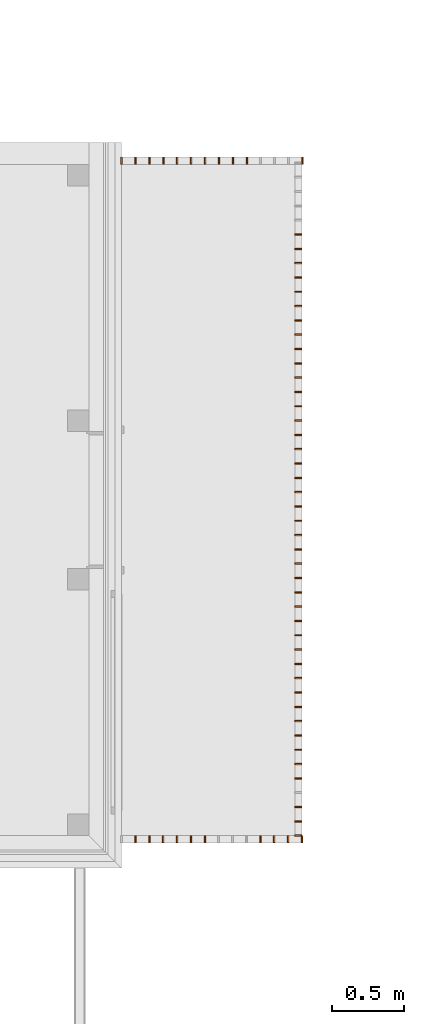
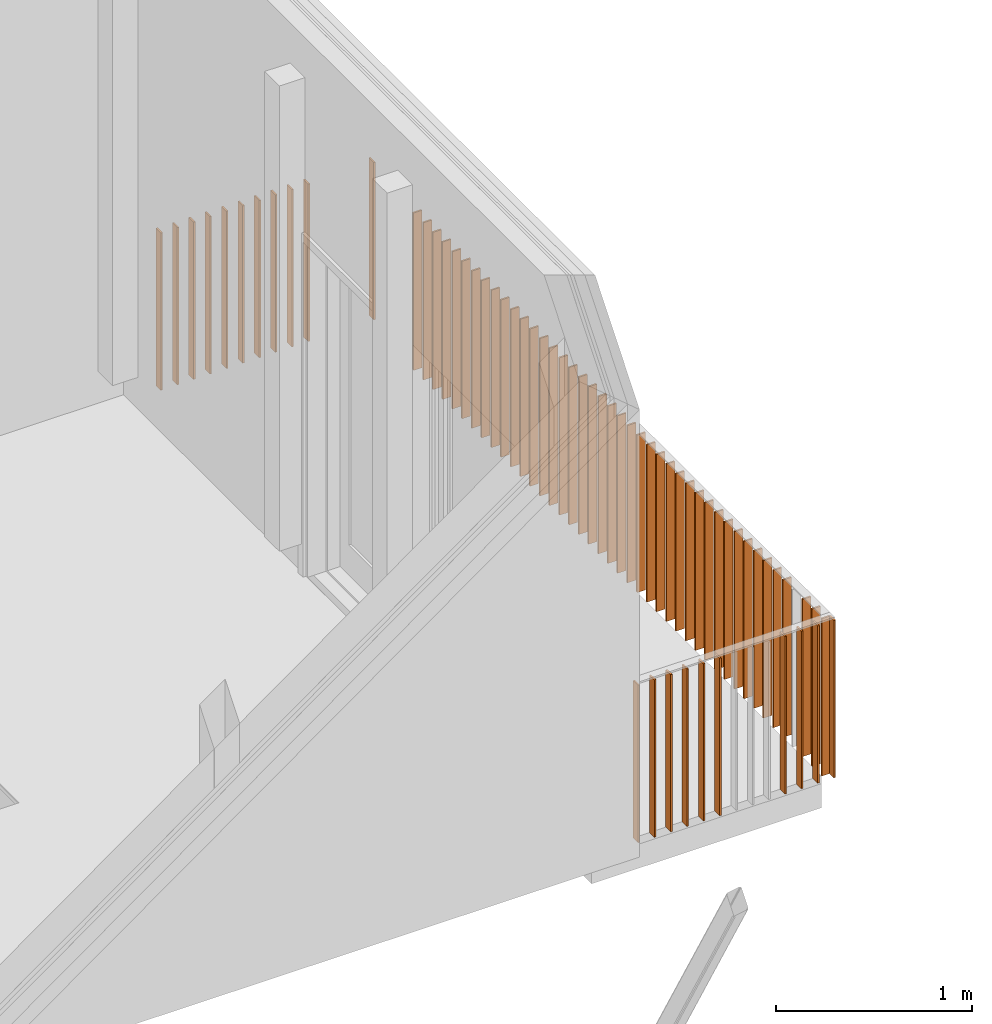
# One storey, part 79 of 100: 63 proxies, 3 elements without a shape of their own.
"""IFC2X3 building model written with IfcOpenShell, lengths in millimetres."""

from ifc_helpers import new_model, entity, si_unit, converted_unit, derived_unit, money_unit, direction, frame, origin_with_axes, place, context, subcontext, project, spatial, faceted_brep, source, transform, mapped, material, type_object, element, aggregate, save


model = new_model("IFC2X3")

# Units and contexts
model_context = context("Model", 3, precision=0.01, world=origin_with_axes(), true_north=direction((0.0, 1.0)))
body_context = subcontext(model_context, "Body", "Model", "MODEL_VIEW")
ifc_project = project(units=[si_unit("LENGTHUNIT", "METRE", prefix="MILLI"), si_unit("AREAUNIT", "SQUARE_METRE"), si_unit("VOLUMEUNIT", "CUBIC_METRE"), converted_unit("PLANEANGLEUNIT", "DEGREE", entity("IfcPlaneAngleMeasure", 0.0174532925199), si_unit("PLANEANGLEUNIT", "RADIAN"), dimensions=[0, 0, 0, 0, 0, 0, 0]), si_unit("SOLIDANGLEUNIT", "STERADIAN"), money_unit("EUR"), converted_unit("TIMEUNIT", "Year", entity("IfcTimeMeasure", 31556926.0), si_unit("TIMEUNIT", "SECOND"), dimensions=[0, 0, 1, 0, 0, 0, 0]), si_unit("MASSUNIT", "GRAM", prefix="KILO"), si_unit("THERMODYNAMICTEMPERATUREUNIT", "DEGREE_CELSIUS"), si_unit("LUMINOUSINTENSITYUNIT", "LUMEN"), si_unit("ENERGYUNIT", "JOULE", prefix="MEGA"), derived_unit("THERMALCONDUCTANCEUNIT", [(si_unit("POWERUNIT", "WATT"), 1), (si_unit("LENGTHUNIT", "METRE"), -1), (si_unit("THERMODYNAMICTEMPERATUREUNIT", "KELVIN"), -1)]), derived_unit("SPECIFICHEATCAPACITYUNIT", [(si_unit("ENERGYUNIT", "JOULE"), 1), (si_unit("MASSUNIT", "GRAM", prefix="KILO"), -1), (si_unit("THERMODYNAMICTEMPERATUREUNIT", "KELVIN"), -1)]), derived_unit("MASSDENSITYUNIT", [(si_unit("MASSUNIT", "GRAM", prefix="KILO"), 1), (si_unit("VOLUMEUNIT", "CUBIC_METRE"), -1)])], contexts=[model_context])

# Site, building, storey
site_placement = place(None, origin_with_axes())
site = spatial("IfcSite", under=ifc_project, at=site_placement, Name="Politse- ja Piirivalveameti ning Päästeameti ühishoone", CompositionType="ELEMENT")
building_placement = place(site_placement, origin_with_axes())
building = spatial("IfcBuilding", under=site, at=building_placement, Name="Politse- ja Piirivalveameti ning Päästeameti ühishoone", CompositionType="ELEMENT")
storey_placement = place(building_placement, frame((0.0, 0.0, 3800.0), z_axis=(0.0, 0.0, 1.0), x_axis=(1.0, 0.0, 0.0)))
storey = spatial("IfcBuildingStorey", under=building, at=storey_placement, Name="Teine korrus", CompositionType="ELEMENT", Elevation=3800.0)

# Railing, proxies
railing_type = type_object("IfcRailingType", Name="Railing Type", PredefinedType="NOTDEFINED")
railing_1_placement = place(storey_placement, frame((-7483.77309461, -75.0, -549.999987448), z_axis=(0.0, 0.0, 1.0), x_axis=(0.0, 1.0, 0.0)))
railing_1 = element("IfcRailing", 1, at=railing_1_placement, inside=storey, type_object=railing_type, Name="PIIRE 2", PredefinedType="NOTDEFINED")
ifc_material = material(Name="Teras - Konstruktsioon")
building_element_proxy_type = type_object("IfcBuildingElementProxyType", Name="IfcBuildingElementProxy", PredefinedType="NOTDEFINED")
shared_shape_1 = source(origin_with_axes(), body_context, "Body", "Brep", [
    faceted_brep([(25.0, 5.0, 0.0), (-25.0, 5.0, 0.0), (-25.0, 5.0, 980.0), (25.0, 5.0, 980.0), (25.0, -5.0, 0.0), (-25.0, -5.0, 0.0), (-25.0, -5.0, 980.0), (25.0, -5.0, 980.0)], [[[0, 1, 2, 3]], [[0, 4, 5, 1]], [[1, 5, 6, 2]], [[3, 2, 6, 7]], [[4, 0, 3, 7]], [[5, 4, 7, 6]]]),
])
proxy_1_placement = place(railing_1_placement, frame((-25.0, -427.074322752, 0.0), z_axis=(0.0, 0.0, 1.0), x_axis=(0.0, -1.0, 0.0)))
proxy_1 = element("IfcBuildingElementProxy", 2, at=proxy_1_placement, type_object=building_element_proxy_type, material=ifc_material, Name="PIIRDE POST - 001", context=body_context, shape_type="MappedRepresentation", body=[
    mapped(shared_shape_1, transform((0.0, 0.0, 0.0), x_axis=(0.0, 1.0, 0.0), y_axis=(-1.0, 0.0, 0.0), z_axis=(0.0, 0.0, 1.0))),
])
shared_shape_2 = source(origin_with_axes(), body_context, "Body", "Brep", [
    faceted_brep([(25.0, 5.0, 0.0), (-25.0, 5.0, 0.0), (-25.0, 5.0, 980.000012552), (25.0, 5.0, 980.000012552), (25.0, -5.0, 0.0), (-25.0, -5.0, 0.0), (-25.0, -5.0, 980.000012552), (25.0, -5.0, 980.000012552)], [[[0, 1, 2, 3]], [[0, 4, 5, 1]], [[1, 5, 6, 2]], [[3, 2, 6, 7]], [[4, 0, 3, 7]], [[5, 4, 7, 6]]]),
])
proxy_2_placement = place(railing_1_placement, frame((-25.0, -330.920476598, -1.25517001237e-05), z_axis=(0.0, 0.0, 1.0), x_axis=(0.0, -1.0, 0.0)))
proxy_2 = element("IfcBuildingElementProxy", 3, at=proxy_2_placement, type_object=building_element_proxy_type, material=ifc_material, Name="BALUSTER - 001", context=body_context, shape_type="MappedRepresentation", body=[
    mapped(shared_shape_2, transform((0.0, 0.0, 0.0), x_axis=(0.0, 1.0, 0.0), y_axis=(-1.0, 0.0, 0.0), z_axis=(0.0, 0.0, 1.0))),
])
proxy_3_placement = place(railing_1_placement, frame((-25.0, -234.766630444, -1.25517001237e-05), z_axis=(0.0, 0.0, 1.0), x_axis=(0.0, -1.0, 0.0)))
proxy_3 = element("IfcBuildingElementProxy", 4, at=proxy_3_placement, type_object=building_element_proxy_type, material=ifc_material, Name="BALUSTER - 001", context=body_context, shape_type="MappedRepresentation", body=[
    mapped(shared_shape_2, transform((0.0, 0.0, 0.0), x_axis=(0.0, 1.0, 0.0), y_axis=(-1.0, 0.0, 0.0), z_axis=(0.0, 0.0, 1.0))),
])
proxy_4_placement = place(railing_1_placement, frame((-25.0, -138.61278429, -1.25517001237e-05), z_axis=(0.0, 0.0, 1.0), x_axis=(0.0, -1.0, 0.0)))
proxy_4 = element("IfcBuildingElementProxy", 5, at=proxy_4_placement, type_object=building_element_proxy_type, material=ifc_material, Name="BALUSTER - 001", context=body_context, shape_type="MappedRepresentation", body=[
    mapped(shared_shape_2, transform((0.0, 0.0, 0.0), x_axis=(0.0, 1.0, 0.0), y_axis=(-1.0, 0.0, 0.0), z_axis=(0.0, 0.0, 1.0))),
])
proxy_5_placement = place(railing_1_placement, frame((-25.0, 246.002600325, -1.25517001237e-05), z_axis=(0.0, 0.0, 1.0), x_axis=(0.0, -1.0, 0.0)))
proxy_5 = element("IfcBuildingElementProxy", 6, at=proxy_5_placement, type_object=building_element_proxy_type, material=ifc_material, Name="BALUSTER - 001", context=body_context, shape_type="MappedRepresentation", body=[
    mapped(shared_shape_2, transform((0.0, 0.0, 0.0), x_axis=(0.0, 1.0, 0.0), y_axis=(-1.0, 0.0, 0.0), z_axis=(0.0, 0.0, 1.0))),
])
proxy_6_placement = place(railing_1_placement, frame((-25.0, 342.156446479, -1.25517001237e-05), z_axis=(0.0, 0.0, 1.0), x_axis=(0.0, -1.0, 0.0)))
proxy_6 = element("IfcBuildingElementProxy", 7, at=proxy_6_placement, type_object=building_element_proxy_type, material=ifc_material, Name="BALUSTER - 001", context=body_context, shape_type="MappedRepresentation", body=[
    mapped(shared_shape_2, transform((0.0, 0.0, 0.0), x_axis=(0.0, 1.0, 0.0), y_axis=(-1.0, 0.0, 0.0), z_axis=(0.0, 0.0, 1.0))),
])
proxy_7_placement = place(railing_1_placement, frame((-25.0, 438.310292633, -1.25517001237e-05), z_axis=(0.0, 0.0, 1.0), x_axis=(0.0, -1.0, 0.0)))
proxy_7 = element("IfcBuildingElementProxy", 8, at=proxy_7_placement, type_object=building_element_proxy_type, material=ifc_material, Name="BALUSTER - 001", context=body_context, shape_type="MappedRepresentation", body=[
    mapped(shared_shape_2, transform((0.0, 0.0, 0.0), x_axis=(0.0, 1.0, 0.0), y_axis=(-1.0, 0.0, 0.0), z_axis=(0.0, 0.0, 1.0))),
])
proxy_8_placement = place(railing_1_placement, frame((-25.0, 534.464138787, -1.25517001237e-05), z_axis=(0.0, 0.0, 1.0), x_axis=(0.0, -1.0, 0.0)))
proxy_8 = element("IfcBuildingElementProxy", 9, at=proxy_8_placement, type_object=building_element_proxy_type, material=ifc_material, Name="BALUSTER - 001", context=body_context, shape_type="MappedRepresentation", body=[
    mapped(shared_shape_2, transform((0.0, 0.0, 0.0), x_axis=(0.0, 1.0, 0.0), y_axis=(-1.0, 0.0, 0.0), z_axis=(0.0, 0.0, 1.0))),
])
proxy_9_placement = place(railing_1_placement, frame((-25.0, 630.617984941, -1.25517001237e-05), z_axis=(0.0, 0.0, 1.0), x_axis=(0.0, -1.0, 0.0)))
proxy_9 = element("IfcBuildingElementProxy", 10, at=proxy_9_placement, type_object=building_element_proxy_type, material=ifc_material, Name="BALUSTER - 001", context=body_context, shape_type="MappedRepresentation", body=[
    mapped(shared_shape_2, transform((0.0, 0.0, 0.0), x_axis=(0.0, 1.0, 0.0), y_axis=(-1.0, 0.0, 0.0), z_axis=(0.0, 0.0, 1.0))),
])
proxy_10_placement = place(railing_1_placement, frame((-25.0, 726.771831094, -1.25517001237e-05), z_axis=(0.0, 0.0, 1.0), x_axis=(0.0, -1.0, 0.0)))
proxy_10 = element("IfcBuildingElementProxy", 11, at=proxy_10_placement, type_object=building_element_proxy_type, material=ifc_material, Name="BALUSTER - 001", context=body_context, shape_type="MappedRepresentation", body=[
    mapped(shared_shape_2, transform((0.0, 0.0, 0.0), x_axis=(0.0, 1.0, 0.0), y_axis=(-1.0, 0.0, 0.0), z_axis=(0.0, 0.0, 1.0))),
])
aggregate(railing_1, [proxy_1, proxy_2, proxy_3, proxy_4, proxy_5, proxy_6, proxy_7, proxy_8, proxy_9, proxy_10])

railing_2_placement = place(storey_placement, frame((-7483.77309461, 4575.4616888, -549.999987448), z_axis=(0.0, 0.0, 1.0), x_axis=(0.0, 1.0, 0.0)))
railing_2 = element("IfcRailing", 12, at=railing_2_placement, inside=storey, type_object=railing_type, Name="PIIRE 2", PredefinedType="NOTDEFINED")
shared_shape_3 = source(origin_with_axes(), body_context, "Body", "Brep", [
    faceted_brep([(25.0, 5.0, 0.0), (-25.0, 5.0, 0.0), (-25.0, 5.0, 980.0), (25.0, 5.0, 980.0), (25.0, -5.0, 0.0), (-25.0, -5.0, 0.0), (-25.0, -5.0, 980.0), (25.0, -5.0, 980.0)], [[[0, 1, 2, 3]], [[0, 4, 5, 1]], [[1, 5, 6, 2]], [[3, 2, 6, 7]], [[4, 0, 3, 7]], [[5, 4, 7, 6]]]),
])
proxy_11_placement = place(railing_2_placement, frame((25.0, -430.454000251, 0.0), z_axis=(0.0, 0.0, 1.0), x_axis=(0.0, -1.0, 0.0)))
proxy_11 = element("IfcBuildingElementProxy", 13, at=proxy_11_placement, type_object=building_element_proxy_type, material=ifc_material, Name="PIIRDE POST - 001", context=body_context, shape_type="MappedRepresentation", body=[
    mapped(shared_shape_3, transform((0.0, 0.0, 0.0), x_axis=(0.0, 1.0, 0.0), y_axis=(-1.0, 0.0, 0.0), z_axis=(0.0, 0.0, 1.0))),
])
proxy_12_placement = place(railing_2_placement, frame((25.0, 822.925677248, 0.0), z_axis=(0.0, 0.0, 1.0), x_axis=(0.0, -1.0, 0.0)))
proxy_12 = element("IfcBuildingElementProxy", 14, at=proxy_12_placement, type_object=building_element_proxy_type, material=ifc_material, Name="PIIRDE POST - 001", context=body_context, shape_type="MappedRepresentation", body=[
    mapped(shared_shape_3, transform((0.0, 0.0, 0.0), x_axis=(0.0, 1.0, 0.0), y_axis=(-1.0, 0.0, 0.0), z_axis=(0.0, 0.0, 1.0))),
])
shared_shape_4 = source(origin_with_axes(), body_context, "Body", "Brep", [
    faceted_brep([(25.0, 5.0, 0.0), (-25.0, 5.0, 0.0), (-25.0, 5.0, 980.000012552), (25.0, 5.0, 980.000012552), (25.0, -5.0, 0.0), (-25.0, -5.0, 0.0), (-25.0, -5.0, 980.000012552), (25.0, -5.0, 980.000012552)], [[[0, 1, 2, 3]], [[0, 4, 5, 1]], [[1, 5, 6, 2]], [[3, 2, 6, 7]], [[4, 0, 3, 7]], [[5, 4, 7, 6]]]),
])
proxy_13_placement = place(railing_2_placement, frame((25.0, -44.7987148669, -1.25517001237e-05), z_axis=(0.0, 0.0, 1.0), x_axis=(0.0, -1.0, 0.0)))
proxy_13 = element("IfcBuildingElementProxy", 15, at=proxy_13_placement, type_object=building_element_proxy_type, material=ifc_material, Name="BALUSTER - 001", context=body_context, shape_type="MappedRepresentation", body=[
    mapped(shared_shape_4, transform((0.0, 0.0, 0.0), x_axis=(0.0, 1.0, 0.0), y_axis=(-1.0, 0.0, 0.0), z_axis=(0.0, 0.0, 1.0))),
])
proxy_14_placement = place(railing_2_placement, frame((25.0, 51.6151064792, -1.25517001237e-05), z_axis=(0.0, 0.0, 1.0), x_axis=(0.0, -1.0, 0.0)))
proxy_14 = element("IfcBuildingElementProxy", 16, at=proxy_14_placement, type_object=building_element_proxy_type, material=ifc_material, Name="BALUSTER - 001", context=body_context, shape_type="MappedRepresentation", body=[
    mapped(shared_shape_4, transform((0.0, 0.0, 0.0), x_axis=(0.0, 1.0, 0.0), y_axis=(-1.0, 0.0, 0.0), z_axis=(0.0, 0.0, 1.0))),
])
proxy_15_placement = place(railing_2_placement, frame((25.0, 148.028927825, -1.25517001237e-05), z_axis=(0.0, 0.0, 1.0), x_axis=(0.0, -1.0, 0.0)))
proxy_15 = element("IfcBuildingElementProxy", 17, at=proxy_15_placement, type_object=building_element_proxy_type, material=ifc_material, Name="BALUSTER - 001", context=body_context, shape_type="MappedRepresentation", body=[
    mapped(shared_shape_4, transform((0.0, 0.0, 0.0), x_axis=(0.0, 1.0, 0.0), y_axis=(-1.0, 0.0, 0.0), z_axis=(0.0, 0.0, 1.0))),
])
proxy_16_placement = place(railing_2_placement, frame((25.0, 244.442749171, -1.25517001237e-05), z_axis=(0.0, 0.0, 1.0), x_axis=(0.0, -1.0, 0.0)))
proxy_16 = element("IfcBuildingElementProxy", 18, at=proxy_16_placement, type_object=building_element_proxy_type, material=ifc_material, Name="BALUSTER - 001", context=body_context, shape_type="MappedRepresentation", body=[
    mapped(shared_shape_4, transform((0.0, 0.0, 0.0), x_axis=(0.0, 1.0, 0.0), y_axis=(-1.0, 0.0, 0.0), z_axis=(0.0, 0.0, 1.0))),
])
proxy_17_placement = place(railing_2_placement, frame((25.0, 340.856570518, -1.25517001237e-05), z_axis=(0.0, 0.0, 1.0), x_axis=(0.0, -1.0, 0.0)))
proxy_17 = element("IfcBuildingElementProxy", 19, at=proxy_17_placement, type_object=building_element_proxy_type, material=ifc_material, Name="BALUSTER - 001", context=body_context, shape_type="MappedRepresentation", body=[
    mapped(shared_shape_4, transform((0.0, 0.0, 0.0), x_axis=(0.0, 1.0, 0.0), y_axis=(-1.0, 0.0, 0.0), z_axis=(0.0, 0.0, 1.0))),
])
proxy_18_placement = place(railing_2_placement, frame((25.0, 437.270391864, -1.25517001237e-05), z_axis=(0.0, 0.0, 1.0), x_axis=(0.0, -1.0, 0.0)))
proxy_18 = element("IfcBuildingElementProxy", 20, at=proxy_18_placement, type_object=building_element_proxy_type, material=ifc_material, Name="BALUSTER - 001", context=body_context, shape_type="MappedRepresentation", body=[
    mapped(shared_shape_4, transform((0.0, 0.0, 0.0), x_axis=(0.0, 1.0, 0.0), y_axis=(-1.0, 0.0, 0.0), z_axis=(0.0, 0.0, 1.0))),
])
proxy_19_placement = place(railing_2_placement, frame((25.0, 533.68421321, -1.25517001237e-05), z_axis=(0.0, 0.0, 1.0), x_axis=(0.0, -1.0, 0.0)))
proxy_19 = element("IfcBuildingElementProxy", 21, at=proxy_19_placement, type_object=building_element_proxy_type, material=ifc_material, Name="BALUSTER - 001", context=body_context, shape_type="MappedRepresentation", body=[
    mapped(shared_shape_4, transform((0.0, 0.0, 0.0), x_axis=(0.0, 1.0, 0.0), y_axis=(-1.0, 0.0, 0.0), z_axis=(0.0, 0.0, 1.0))),
])
proxy_20_placement = place(railing_2_placement, frame((25.0, 630.098034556, -1.25517001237e-05), z_axis=(0.0, 0.0, 1.0), x_axis=(0.0, -1.0, 0.0)))
proxy_20 = element("IfcBuildingElementProxy", 22, at=proxy_20_placement, type_object=building_element_proxy_type, material=ifc_material, Name="BALUSTER - 001", context=body_context, shape_type="MappedRepresentation", body=[
    mapped(shared_shape_4, transform((0.0, 0.0, 0.0), x_axis=(0.0, 1.0, 0.0), y_axis=(-1.0, 0.0, 0.0), z_axis=(0.0, 0.0, 1.0))),
])
proxy_21_placement = place(railing_2_placement, frame((25.0, 726.511855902, -1.25517001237e-05), z_axis=(0.0, 0.0, 1.0), x_axis=(0.0, -1.0, 0.0)))
proxy_21 = element("IfcBuildingElementProxy", 23, at=proxy_21_placement, type_object=building_element_proxy_type, material=ifc_material, Name="BALUSTER - 001", context=body_context, shape_type="MappedRepresentation", body=[
    mapped(shared_shape_4, transform((0.0, 0.0, 0.0), x_axis=(0.0, 1.0, 0.0), y_axis=(-1.0, 0.0, 0.0), z_axis=(0.0, 0.0, 1.0))),
])
aggregate(railing_2, [proxy_11, proxy_12, proxy_13, proxy_14, proxy_15, proxy_16, proxy_17, proxy_18, proxy_19, proxy_20, proxy_21])

railing_3_placement = place(storey_placement, frame((-7106.69877185, 4799.53601155, -549.999987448), z_axis=(0.0, 0.0, 1.0), x_axis=(1.0, 0.0, 0.0)))
railing_3 = element("IfcRailing", 24, at=railing_3_placement, inside=storey, type_object=railing_type, Name="PIIRE 2", PredefinedType="NOTDEFINED")
proxy_22_placement = place(railing_3_placement, frame((25.0, -3783.77196788, -1.25517001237e-05), z_axis=(0.0, 0.0, 1.0), x_axis=(1.0, 0.0, 0.0)))
proxy_22 = element("IfcBuildingElementProxy", 25, at=proxy_22_placement, type_object=building_element_proxy_type, material=ifc_material, Name="BALUSTER - 001", context=body_context, shape_type="MappedRepresentation", body=[
    mapped(shared_shape_4, transform((0.0, 0.0, 0.0))),
])
proxy_23_placement = place(railing_3_placement, frame((25.0, -3684.61160027, -1.25517001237e-05), z_axis=(0.0, 0.0, 1.0), x_axis=(1.0, 0.0, 0.0)))
proxy_23 = element("IfcBuildingElementProxy", 26, at=proxy_23_placement, type_object=building_element_proxy_type, material=ifc_material, Name="BALUSTER - 001", context=body_context, shape_type="MappedRepresentation", body=[
    mapped(shared_shape_4, transform((0.0, 0.0, 0.0))),
])
proxy_24_placement = place(railing_3_placement, frame((25.0, -3585.45123267, -1.25517001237e-05), z_axis=(0.0, 0.0, 1.0), x_axis=(1.0, 0.0, 0.0)))
proxy_24 = element("IfcBuildingElementProxy", 27, at=proxy_24_placement, type_object=building_element_proxy_type, material=ifc_material, Name="BALUSTER - 001", context=body_context, shape_type="MappedRepresentation", body=[
    mapped(shared_shape_4, transform((0.0, 0.0, 0.0))),
])
proxy_25_placement = place(railing_3_placement, frame((25.0, -3486.29086506, -1.25517001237e-05), z_axis=(0.0, 0.0, 1.0), x_axis=(1.0, 0.0, 0.0)))
proxy_25 = element("IfcBuildingElementProxy", 28, at=proxy_25_placement, type_object=building_element_proxy_type, material=ifc_material, Name="BALUSTER - 001", context=body_context, shape_type="MappedRepresentation", body=[
    mapped(shared_shape_4, transform((0.0, 0.0, 0.0))),
])
proxy_26_placement = place(railing_3_placement, frame((25.0, -3387.13049745, -1.25517001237e-05), z_axis=(0.0, 0.0, 1.0), x_axis=(1.0, 0.0, 0.0)))
proxy_26 = element("IfcBuildingElementProxy", 29, at=proxy_26_placement, type_object=building_element_proxy_type, material=ifc_material, Name="BALUSTER - 001", context=body_context, shape_type="MappedRepresentation", body=[
    mapped(shared_shape_4, transform((0.0, 0.0, 0.0))),
])
proxy_27_placement = place(railing_3_placement, frame((25.0, -3287.97012985, -1.25517001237e-05), z_axis=(0.0, 0.0, 1.0), x_axis=(1.0, 0.0, 0.0)))
proxy_27 = element("IfcBuildingElementProxy", 30, at=proxy_27_placement, type_object=building_element_proxy_type, material=ifc_material, Name="BALUSTER - 001", context=body_context, shape_type="MappedRepresentation", body=[
    mapped(shared_shape_4, transform((0.0, 0.0, 0.0))),
])
proxy_28_placement = place(railing_3_placement, frame((25.0, -3188.80976224, -1.25517001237e-05), z_axis=(0.0, 0.0, 1.0), x_axis=(1.0, 0.0, 0.0)))
proxy_28 = element("IfcBuildingElementProxy", 31, at=proxy_28_placement, type_object=building_element_proxy_type, material=ifc_material, Name="BALUSTER - 001", context=body_context, shape_type="MappedRepresentation", body=[
    mapped(shared_shape_4, transform((0.0, 0.0, 0.0))),
])
proxy_29_placement = place(railing_3_placement, frame((25.0, -3089.64939463, -1.25517001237e-05), z_axis=(0.0, 0.0, 1.0), x_axis=(1.0, 0.0, 0.0)))
proxy_29 = element("IfcBuildingElementProxy", 32, at=proxy_29_placement, type_object=building_element_proxy_type, material=ifc_material, Name="BALUSTER - 001", context=body_context, shape_type="MappedRepresentation", body=[
    mapped(shared_shape_4, transform((0.0, 0.0, 0.0))),
])
proxy_30_placement = place(railing_3_placement, frame((25.0, -2990.48902702, -1.25517001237e-05), z_axis=(0.0, 0.0, 1.0), x_axis=(1.0, 0.0, 0.0)))
proxy_30 = element("IfcBuildingElementProxy", 33, at=proxy_30_placement, type_object=building_element_proxy_type, material=ifc_material, Name="BALUSTER - 001", context=body_context, shape_type="MappedRepresentation", body=[
    mapped(shared_shape_4, transform((0.0, 0.0, 0.0))),
])
proxy_31_placement = place(railing_3_placement, frame((25.0, -2891.32865942, -1.25517001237e-05), z_axis=(0.0, 0.0, 1.0), x_axis=(1.0, 0.0, 0.0)))
proxy_31 = element("IfcBuildingElementProxy", 34, at=proxy_31_placement, type_object=building_element_proxy_type, material=ifc_material, Name="BALUSTER - 001", context=body_context, shape_type="MappedRepresentation", body=[
    mapped(shared_shape_4, transform((0.0, 0.0, 0.0))),
])
proxy_32_placement = place(railing_3_placement, frame((25.0, -2792.16829181, -1.25517001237e-05), z_axis=(0.0, 0.0, 1.0), x_axis=(1.0, 0.0, 0.0)))
proxy_32 = element("IfcBuildingElementProxy", 35, at=proxy_32_placement, type_object=building_element_proxy_type, material=ifc_material, Name="BALUSTER - 001", context=body_context, shape_type="MappedRepresentation", body=[
    mapped(shared_shape_4, transform((0.0, 0.0, 0.0))),
])
proxy_33_placement = place(railing_3_placement, frame((25.0, -2693.0079242, -1.25517001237e-05), z_axis=(0.0, 0.0, 1.0), x_axis=(1.0, 0.0, 0.0)))
proxy_33 = element("IfcBuildingElementProxy", 36, at=proxy_33_placement, type_object=building_element_proxy_type, material=ifc_material, Name="BALUSTER - 001", context=body_context, shape_type="MappedRepresentation", body=[
    mapped(shared_shape_4, transform((0.0, 0.0, 0.0))),
])
proxy_34_placement = place(railing_3_placement, frame((25.0, -2593.8475566, -1.25517001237e-05), z_axis=(0.0, 0.0, 1.0), x_axis=(1.0, 0.0, 0.0)))
proxy_34 = element("IfcBuildingElementProxy", 37, at=proxy_34_placement, type_object=building_element_proxy_type, material=ifc_material, Name="BALUSTER - 001", context=body_context, shape_type="MappedRepresentation", body=[
    mapped(shared_shape_4, transform((0.0, 0.0, 0.0))),
])
proxy_35_placement = place(railing_3_placement, frame((25.0, -2494.68718899, -1.25517001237e-05), z_axis=(0.0, 0.0, 1.0), x_axis=(1.0, 0.0, 0.0)))
proxy_35 = element("IfcBuildingElementProxy", 38, at=proxy_35_placement, type_object=building_element_proxy_type, material=ifc_material, Name="BALUSTER - 001", context=body_context, shape_type="MappedRepresentation", body=[
    mapped(shared_shape_4, transform((0.0, 0.0, 0.0))),
])
proxy_36_placement = place(railing_3_placement, frame((25.0, -2395.52682138, -1.25517001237e-05), z_axis=(0.0, 0.0, 1.0), x_axis=(1.0, 0.0, 0.0)))
proxy_36 = element("IfcBuildingElementProxy", 39, at=proxy_36_placement, type_object=building_element_proxy_type, material=ifc_material, Name="BALUSTER - 001", context=body_context, shape_type="MappedRepresentation", body=[
    mapped(shared_shape_4, transform((0.0, 0.0, 0.0))),
])
proxy_37_placement = place(railing_3_placement, frame((25.0, -2296.36645378, -1.25517001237e-05), z_axis=(0.0, 0.0, 1.0), x_axis=(1.0, 0.0, 0.0)))
proxy_37 = element("IfcBuildingElementProxy", 40, at=proxy_37_placement, type_object=building_element_proxy_type, material=ifc_material, Name="BALUSTER - 001", context=body_context, shape_type="MappedRepresentation", body=[
    mapped(shared_shape_4, transform((0.0, 0.0, 0.0))),
])
proxy_38_placement = place(railing_3_placement, frame((25.0, -2197.20608617, -1.25517001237e-05), z_axis=(0.0, 0.0, 1.0), x_axis=(1.0, 0.0, 0.0)))
proxy_38 = element("IfcBuildingElementProxy", 41, at=proxy_38_placement, type_object=building_element_proxy_type, material=ifc_material, Name="BALUSTER - 001", context=body_context, shape_type="MappedRepresentation", body=[
    mapped(shared_shape_4, transform((0.0, 0.0, 0.0))),
])
proxy_39_placement = place(railing_3_placement, frame((25.0, -2098.04571856, -1.25517001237e-05), z_axis=(0.0, 0.0, 1.0), x_axis=(1.0, 0.0, 0.0)))
proxy_39 = element("IfcBuildingElementProxy", 42, at=proxy_39_placement, type_object=building_element_proxy_type, material=ifc_material, Name="BALUSTER - 001", context=body_context, shape_type="MappedRepresentation", body=[
    mapped(shared_shape_4, transform((0.0, 0.0, 0.0))),
])
proxy_40_placement = place(railing_3_placement, frame((25.0, -1998.88535096, -1.25517001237e-05), z_axis=(0.0, 0.0, 1.0), x_axis=(1.0, 0.0, 0.0)))
proxy_40 = element("IfcBuildingElementProxy", 43, at=proxy_40_placement, type_object=building_element_proxy_type, material=ifc_material, Name="BALUSTER - 001", context=body_context, shape_type="MappedRepresentation", body=[
    mapped(shared_shape_4, transform((0.0, 0.0, 0.0))),
])
proxy_41_placement = place(railing_3_placement, frame((25.0, -1899.72498335, -1.25517001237e-05), z_axis=(0.0, 0.0, 1.0), x_axis=(1.0, 0.0, 0.0)))
proxy_41 = element("IfcBuildingElementProxy", 44, at=proxy_41_placement, type_object=building_element_proxy_type, material=ifc_material, Name="BALUSTER - 001", context=body_context, shape_type="MappedRepresentation", body=[
    mapped(shared_shape_4, transform((0.0, 0.0, 0.0))),
])
proxy_42_placement = place(railing_3_placement, frame((25.0, -1800.56461574, -1.25517001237e-05), z_axis=(0.0, 0.0, 1.0), x_axis=(1.0, 0.0, 0.0)))
proxy_42 = element("IfcBuildingElementProxy", 45, at=proxy_42_placement, type_object=building_element_proxy_type, material=ifc_material, Name="BALUSTER - 001", context=body_context, shape_type="MappedRepresentation", body=[
    mapped(shared_shape_4, transform((0.0, 0.0, 0.0))),
])
proxy_43_placement = place(railing_3_placement, frame((25.0, -1701.40424814, -1.25517001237e-05), z_axis=(0.0, 0.0, 1.0), x_axis=(1.0, 0.0, 0.0)))
proxy_43 = element("IfcBuildingElementProxy", 46, at=proxy_43_placement, type_object=building_element_proxy_type, material=ifc_material, Name="BALUSTER - 001", context=body_context, shape_type="MappedRepresentation", body=[
    mapped(shared_shape_4, transform((0.0, 0.0, 0.0))),
])
proxy_44_placement = place(railing_3_placement, frame((25.0, -1602.24388053, -1.25517001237e-05), z_axis=(0.0, 0.0, 1.0), x_axis=(1.0, 0.0, 0.0)))
proxy_44 = element("IfcBuildingElementProxy", 47, at=proxy_44_placement, type_object=building_element_proxy_type, material=ifc_material, Name="BALUSTER - 001", context=body_context, shape_type="MappedRepresentation", body=[
    mapped(shared_shape_4, transform((0.0, 0.0, 0.0))),
])
proxy_45_placement = place(railing_3_placement, frame((25.0, -1503.08351292, -1.25517001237e-05), z_axis=(0.0, 0.0, 1.0), x_axis=(1.0, 0.0, 0.0)))
proxy_45 = element("IfcBuildingElementProxy", 48, at=proxy_45_placement, type_object=building_element_proxy_type, material=ifc_material, Name="BALUSTER - 001", context=body_context, shape_type="MappedRepresentation", body=[
    mapped(shared_shape_4, transform((0.0, 0.0, 0.0))),
])
proxy_46_placement = place(railing_3_placement, frame((25.0, -1403.92314532, -1.25517001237e-05), z_axis=(0.0, 0.0, 1.0), x_axis=(1.0, 0.0, 0.0)))
proxy_46 = element("IfcBuildingElementProxy", 49, at=proxy_46_placement, type_object=building_element_proxy_type, material=ifc_material, Name="BALUSTER - 001", context=body_context, shape_type="MappedRepresentation", body=[
    mapped(shared_shape_4, transform((0.0, 0.0, 0.0))),
])
proxy_47_placement = place(railing_3_placement, frame((25.0, -1304.76277771, -1.25517001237e-05), z_axis=(0.0, 0.0, 1.0), x_axis=(1.0, 0.0, 0.0)))
proxy_47 = element("IfcBuildingElementProxy", 50, at=proxy_47_placement, type_object=building_element_proxy_type, material=ifc_material, Name="BALUSTER - 001", context=body_context, shape_type="MappedRepresentation", body=[
    mapped(shared_shape_4, transform((0.0, 0.0, 0.0))),
])
proxy_48_placement = place(railing_3_placement, frame((25.0, -1205.6024101, -1.25517001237e-05), z_axis=(0.0, 0.0, 1.0), x_axis=(1.0, 0.0, 0.0)))
proxy_48 = element("IfcBuildingElementProxy", 51, at=proxy_48_placement, type_object=building_element_proxy_type, material=ifc_material, Name="BALUSTER - 001", context=body_context, shape_type="MappedRepresentation", body=[
    mapped(shared_shape_4, transform((0.0, 0.0, 0.0))),
])
proxy_49_placement = place(railing_3_placement, frame((25.0, -1106.4420425, -1.25517001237e-05), z_axis=(0.0, 0.0, 1.0), x_axis=(1.0, 0.0, 0.0)))
proxy_49 = element("IfcBuildingElementProxy", 52, at=proxy_49_placement, type_object=building_element_proxy_type, material=ifc_material, Name="BALUSTER - 001", context=body_context, shape_type="MappedRepresentation", body=[
    mapped(shared_shape_4, transform((0.0, 0.0, 0.0))),
])
proxy_50_placement = place(railing_3_placement, frame((25.0, -1007.28167489, -1.25517001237e-05), z_axis=(0.0, 0.0, 1.0), x_axis=(1.0, 0.0, 0.0)))
proxy_50 = element("IfcBuildingElementProxy", 53, at=proxy_50_placement, type_object=building_element_proxy_type, material=ifc_material, Name="BALUSTER - 001", context=body_context, shape_type="MappedRepresentation", body=[
    mapped(shared_shape_4, transform((0.0, 0.0, 0.0))),
])
proxy_51_placement = place(railing_3_placement, frame((25.0, -908.121307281, -1.25517001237e-05), z_axis=(0.0, 0.0, 1.0), x_axis=(1.0, 0.0, 0.0)))
proxy_51 = element("IfcBuildingElementProxy", 54, at=proxy_51_placement, type_object=building_element_proxy_type, material=ifc_material, Name="BALUSTER - 001", context=body_context, shape_type="MappedRepresentation", body=[
    mapped(shared_shape_4, transform((0.0, 0.0, 0.0))),
])
proxy_52_placement = place(railing_3_placement, frame((25.0, -808.960939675, -1.25517001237e-05), z_axis=(0.0, 0.0, 1.0), x_axis=(1.0, 0.0, 0.0)))
proxy_52 = element("IfcBuildingElementProxy", 55, at=proxy_52_placement, type_object=building_element_proxy_type, material=ifc_material, Name="BALUSTER - 001", context=body_context, shape_type="MappedRepresentation", body=[
    mapped(shared_shape_4, transform((0.0, 0.0, 0.0))),
])
proxy_53_placement = place(railing_3_placement, frame((25.0, -709.800572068, -1.25517001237e-05), z_axis=(0.0, 0.0, 1.0), x_axis=(1.0, 0.0, 0.0)))
proxy_53 = element("IfcBuildingElementProxy", 56, at=proxy_53_placement, type_object=building_element_proxy_type, material=ifc_material, Name="BALUSTER - 001", context=body_context, shape_type="MappedRepresentation", body=[
    mapped(shared_shape_4, transform((0.0, 0.0, 0.0))),
])
shared_shape_5 = source(origin_with_axes(), body_context, "Body", "Brep", [
    faceted_brep([(25.0, 5.0, 0.0), (-25.0, 5.0, 0.0), (-25.0, 5.0, 980.0), (25.0, 5.0, 980.0), (25.0, -5.0, 0.0), (-25.0, -5.0, 0.0), (-25.0, -5.0, 980.0), (25.0, -5.0, 980.0)], [[[0, 1, 2, 3]], [[0, 4, 5, 1]], [[1, 5, 6, 2]], [[3, 2, 6, 7]], [[4, 0, 3, 7]], [[5, 4, 7, 6]]]),
])
proxy_54_placement = place(railing_3_placement, frame((25.0, -4874.53601155, 0.0), z_axis=(0.0, 0.0, 1.0), x_axis=(1.0, 0.0, 0.0)))
proxy_54 = element("IfcBuildingElementProxy", 57, at=proxy_54_placement, type_object=building_element_proxy_type, material=ifc_material, Name="PIIRDE POST - 001", context=body_context, shape_type="MappedRepresentation", body=[
    mapped(shared_shape_5, transform((0.0, 0.0, 0.0))),
])
shared_shape_6 = source(origin_with_axes(), body_context, "Body", "Brep", [
    faceted_brep([(25.0, 5.0, 0.0), (-25.0, 5.0, 0.0), (-25.0, 5.0, 980.000012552), (25.0, 5.0, 980.000012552), (25.0, -5.0, 0.0), (-25.0, -5.0, 0.0), (-25.0, -5.0, 980.000012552), (25.0, -5.0, 980.000012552)], [[[0, 1, 2, 3]], [[0, 4, 5, 1]], [[1, 5, 6, 2]], [[3, 2, 6, 7]], [[4, 0, 3, 7]], [[5, 4, 7, 6]]]),
])
proxy_55_placement = place(railing_3_placement, frame((25.0, -4775.37564395, -1.25517001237e-05), z_axis=(0.0, 0.0, 1.0), x_axis=(1.0, 0.0, 0.0)))
proxy_55 = element("IfcBuildingElementProxy", 58, at=proxy_55_placement, type_object=building_element_proxy_type, material=ifc_material, Name="BALUSTER - 001", context=body_context, shape_type="MappedRepresentation", body=[
    mapped(shared_shape_6, transform((0.0, 0.0, 0.0))),
])
proxy_56_placement = place(railing_3_placement, frame((25.0, -4676.21527634, -1.25517001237e-05), z_axis=(0.0, 0.0, 1.0), x_axis=(1.0, 0.0, 0.0)))
proxy_56 = element("IfcBuildingElementProxy", 59, at=proxy_56_placement, type_object=building_element_proxy_type, material=ifc_material, Name="BALUSTER - 001", context=body_context, shape_type="MappedRepresentation", body=[
    mapped(shared_shape_6, transform((0.0, 0.0, 0.0))),
])
shared_shape_7 = source(origin_with_axes(), body_context, "Body", "Brep", [
    faceted_brep([(25.0, 5.0, 0.0), (-25.0, 5.0, 0.0), (-25.0, 5.0, 980.000012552), (25.0, 5.0, 980.000012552), (25.0, -5.0, 0.0), (-25.0, -5.0, 0.0), (-25.0, -5.0, 980.000012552), (25.0, -5.0, 980.000012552)], [[[0, 1, 2, 3]], [[0, 4, 5, 1]], [[1, 5, 6, 2]], [[3, 2, 6, 7]], [[4, 0, 3, 7]], [[5, 4, 7, 6]]]),
])
proxy_57_placement = place(railing_3_placement, frame((25.0, -4477.89454113, -1.25517001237e-05), z_axis=(0.0, 0.0, 1.0), x_axis=(1.0, 0.0, 0.0)))
proxy_57 = element("IfcBuildingElementProxy", 60, at=proxy_57_placement, type_object=building_element_proxy_type, material=ifc_material, Name="BALUSTER - 001", context=body_context, shape_type="MappedRepresentation", body=[
    mapped(shared_shape_7, transform((0.0, 0.0, 0.0))),
])
proxy_58_placement = place(railing_3_placement, frame((25.0, -4378.73417352, -1.25517001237e-05), z_axis=(0.0, 0.0, 1.0), x_axis=(1.0, 0.0, 0.0)))
proxy_58 = element("IfcBuildingElementProxy", 61, at=proxy_58_placement, type_object=building_element_proxy_type, material=ifc_material, Name="BALUSTER - 001", context=body_context, shape_type="MappedRepresentation", body=[
    mapped(shared_shape_7, transform((0.0, 0.0, 0.0))),
])
shared_shape_8 = source(origin_with_axes(), body_context, "Body", "Brep", [
    faceted_brep([(25.0, 5.0, 0.0), (-25.0, 5.0, 0.0), (-25.0, 5.0, 980.000012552), (25.0, 5.0, 980.000012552), (25.0, -5.0, 0.0), (-25.0, -5.0, 0.0), (-25.0, -5.0, 980.000012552), (25.0, -5.0, 980.000012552)], [[[0, 1, 2, 3]], [[0, 4, 5, 1]], [[1, 5, 6, 2]], [[3, 2, 6, 7]], [[4, 0, 3, 7]], [[5, 4, 7, 6]]]),
])
proxy_59_placement = place(railing_3_placement, frame((25.0, -4279.57380591, -1.25517001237e-05), z_axis=(0.0, 0.0, 1.0), x_axis=(1.0, 0.0, 0.0)))
proxy_59 = element("IfcBuildingElementProxy", 62, at=proxy_59_placement, type_object=building_element_proxy_type, material=ifc_material, Name="BALUSTER - 001", context=body_context, shape_type="MappedRepresentation", body=[
    mapped(shared_shape_8, transform((0.0, 0.0, 0.0))),
])
proxy_60_placement = place(railing_3_placement, frame((25.0, -4180.41343831, -1.25517001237e-05), z_axis=(0.0, 0.0, 1.0), x_axis=(1.0, 0.0, 0.0)))
proxy_60 = element("IfcBuildingElementProxy", 63, at=proxy_60_placement, type_object=building_element_proxy_type, material=ifc_material, Name="BALUSTER - 001", context=body_context, shape_type="MappedRepresentation", body=[
    mapped(shared_shape_8, transform((0.0, 0.0, 0.0))),
])
proxy_61_placement = place(railing_3_placement, frame((25.0, -4081.2530707, -1.25517001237e-05), z_axis=(0.0, 0.0, 1.0), x_axis=(1.0, 0.0, 0.0)))
proxy_61 = element("IfcBuildingElementProxy", 64, at=proxy_61_placement, type_object=building_element_proxy_type, material=ifc_material, Name="BALUSTER - 001", context=body_context, shape_type="MappedRepresentation", body=[
    mapped(shared_shape_8, transform((0.0, 0.0, 0.0))),
])
proxy_62_placement = place(railing_3_placement, frame((25.0, -3982.09270309, -1.25517001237e-05), z_axis=(0.0, 0.0, 1.0), x_axis=(1.0, 0.0, 0.0)))
proxy_62 = element("IfcBuildingElementProxy", 65, at=proxy_62_placement, type_object=building_element_proxy_type, material=ifc_material, Name="BALUSTER - 001", context=body_context, shape_type="MappedRepresentation", body=[
    mapped(shared_shape_8, transform((0.0, 0.0, 0.0))),
])
proxy_63_placement = place(railing_3_placement, frame((25.0, -3882.93233549, -1.25517001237e-05), z_axis=(0.0, 0.0, 1.0), x_axis=(1.0, 0.0, 0.0)))
proxy_63 = element("IfcBuildingElementProxy", 66, at=proxy_63_placement, type_object=building_element_proxy_type, material=ifc_material, Name="BALUSTER - 001", context=body_context, shape_type="MappedRepresentation", body=[
    mapped(shared_shape_8, transform((0.0, 0.0, 0.0))),
])
aggregate(railing_3, [proxy_54, proxy_55, proxy_56, proxy_57, proxy_58, proxy_59, proxy_60, proxy_61, proxy_62, proxy_63, proxy_22, proxy_23, proxy_24, proxy_25, proxy_26, proxy_27, proxy_28, proxy_29, proxy_30, proxy_31, proxy_32, proxy_33, proxy_34, proxy_35, proxy_36, proxy_37, proxy_38, proxy_39, proxy_40, proxy_41, proxy_42, proxy_43, proxy_44, proxy_45, proxy_46, proxy_47, proxy_48, proxy_49, proxy_50, proxy_51, proxy_52, proxy_53])

save(model, "model.ifc")
